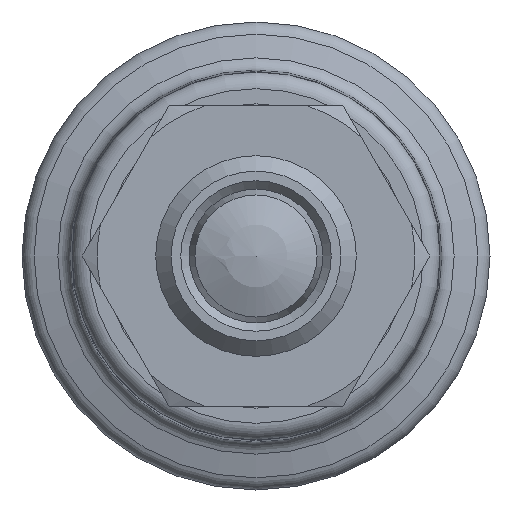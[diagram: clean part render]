
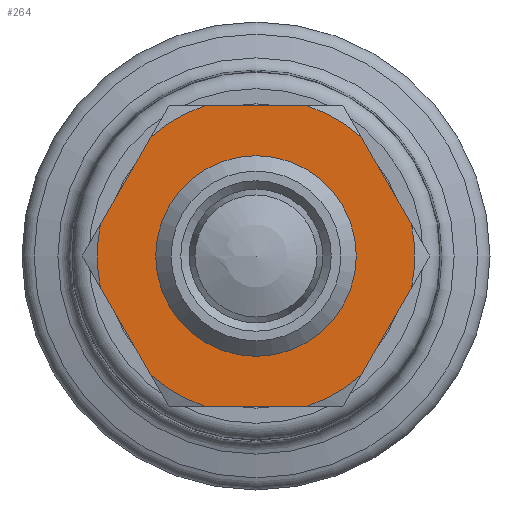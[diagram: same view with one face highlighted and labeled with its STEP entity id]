
A CAD part, left-side view. The second image highlights one B-rep face of the part: STEP entity #264.
In plain terms, the highlighted planar face has unit normal (-1, 0, 0) as drawn and (1, 0, 0) by its records, which use the part's own axes.
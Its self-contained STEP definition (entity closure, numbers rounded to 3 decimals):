
#264 = ADVANCED_FACE( '', ( #449, #450 ), #451, .F. );
#449 = FACE_BOUND( '', #654, .T. );
#450 = FACE_OUTER_BOUND( '', #655, .T. );
#451 = PLANE( '', #656 );
#654 = EDGE_LOOP( '', ( #1031 ) );
#655 = EDGE_LOOP( '', ( #1032, #1033, #1034, #1035, #1036, #1037, #1038, #1039, #1040, #1041, #1042, #1043 ) );
#656 = AXIS2_PLACEMENT_3D( '', #1044, #1045, #1046 );
#1031 = ORIENTED_EDGE( '', *, *, #1248, .F. );
#1032 = ORIENTED_EDGE( '', *, *, #1249, .T. );
#1033 = ORIENTED_EDGE( '', *, *, #1250, .T. );
#1034 = ORIENTED_EDGE( '', *, *, #1219, .T. );
#1035 = ORIENTED_EDGE( '', *, *, #1251, .T. );
#1036 = ORIENTED_EDGE( '', *, *, #1212, .T. );
#1037 = ORIENTED_EDGE( '', *, *, #1252, .T. );
#1038 = ORIENTED_EDGE( '', *, *, #1242, .T. );
#1039 = ORIENTED_EDGE( '', *, *, #1227, .T. );
#1040 = ORIENTED_EDGE( '', *, *, #1237, .T. );
#1041 = ORIENTED_EDGE( '', *, *, #1253, .T. );
#1042 = ORIENTED_EDGE( '', *, *, #1230, .T. );
#1043 = ORIENTED_EDGE( '', *, *, #1254, .T. );
#1044 = CARTESIAN_POINT( '', ( 6., 9.5, 0. ) );
#1045 = DIRECTION( '', ( -1., 0., 0. ) );
#1046 = DIRECTION( '', ( 0., 0., 1. ) );
#1212 = EDGE_CURVE( '', #1387, #1385, #1388, .T. );
#1219 = EDGE_CURVE( '', #1400, #1398, #1401, .T. );
#1227 = EDGE_CURVE( '', #1411, #1414, #1416, .T. );
#1230 = EDGE_CURVE( '', #1422, #1420, #1423, .T. );
#1237 = EDGE_CURVE( '', #1414, #1433, #1435, .T. );
#1242 = EDGE_CURVE( '', #1443, #1411, #1444, .T. );
#1248 = EDGE_CURVE( '', #1452, #1452, #1453, .T. );
#1249 = EDGE_CURVE( '', #1454, #1455, #1456, .T. );
#1250 = EDGE_CURVE( '', #1455, #1400, #1457, .T. );
#1251 = EDGE_CURVE( '', #1398, #1387, #1458, .T. );
#1252 = EDGE_CURVE( '', #1385, #1443, #1459, .T. );
#1253 = EDGE_CURVE( '', #1433, #1422, #1460, .T. );
#1254 = EDGE_CURVE( '', #1420, #1454, #1461, .T. );
#1385 = VERTEX_POINT( '', #1906 );
#1387 = VERTEX_POINT( '', #1911 );
#1388 = LINE( '', #1912, #1913 );
#1398 = VERTEX_POINT( '', #1934 );
#1400 = VERTEX_POINT( '', #1939 );
#1401 = LINE( '', #1940, #1941 );
#1411 = VERTEX_POINT( '', #1962 );
#1414 = VERTEX_POINT( '', #1968 );
#1416 = CIRCLE( '', #1973, 9.5 );
#1420 = VERTEX_POINT( '', #1978 );
#1422 = VERTEX_POINT( '', #1983 );
#1423 = LINE( '', #1984, #1985 );
#1433 = VERTEX_POINT( '', #2006 );
#1435 = LINE( '', #2011, #2012 );
#1443 = VERTEX_POINT( '', #2028 );
#1444 = LINE( '', #2029, #2030 );
#1452 = VERTEX_POINT( '', #2048 );
#1453 = CIRCLE( '', #2049, 6. );
#1454 = VERTEX_POINT( '', #2050 );
#1455 = VERTEX_POINT( '', #2051 );
#1456 = LINE( '', #2052, #2053 );
#1457 = CIRCLE( '', #2054, 9.5 );
#1458 = CIRCLE( '', #2055, 9.5 );
#1459 = CIRCLE( '', #2056, 9.5 );
#1460 = CIRCLE( '', #2057, 9.5 );
#1461 = CIRCLE( '', #2058, 9.5 );
#1906 = CARTESIAN_POINT( '', ( 6., -3.041, 9. ) );
#1911 = CARTESIAN_POINT( '', ( 6., 3.041, 9. ) );
#1912 = CARTESIAN_POINT( '', ( 6., 9.5, 9. ) );
#1913 = VECTOR( '', #2234, 1000. );
#1934 = CARTESIAN_POINT( '', ( 6., 6.274, 7.134 ) );
#1939 = CARTESIAN_POINT( '', ( 6., 9.315, 1.866 ) );
#1940 = CARTESIAN_POINT( '', ( 6., 10.169, 0.386 ) );
#1941 = VECTOR( '', #2237, 1000. );
#1962 = CARTESIAN_POINT( '', ( 6., -9.315, 1.866 ) );
#1968 = CARTESIAN_POINT( '', ( 6., -9.315, -1.866 ) );
#1973 = AXIS2_PLACEMENT_3D( '', #2240, #2241, #2242 );
#1978 = CARTESIAN_POINT( '', ( 6., 3.041, -9. ) );
#1983 = CARTESIAN_POINT( '', ( 6., -3.041, -9. ) );
#1984 = CARTESIAN_POINT( '', ( 6., 9.5, -9. ) );
#1985 = VECTOR( '', #2244, 1000. );
#2006 = CARTESIAN_POINT( '', ( 6., -6.274, -7.134 ) );
#2011 = CARTESIAN_POINT( '', ( 6., -5.419, -8.614 ) );
#2012 = VECTOR( '', #2247, 1000. );
#2028 = CARTESIAN_POINT( '', ( 6., -6.274, 7.134 ) );
#2029 = CARTESIAN_POINT( '', ( 6., -5.419, 8.614 ) );
#2030 = VECTOR( '', #2250, 1000. );
#2048 = CARTESIAN_POINT( '', ( 6., 0., -6. ) );
#2049 = AXIS2_PLACEMENT_3D( '', #2255, #2256, #2257 );
#2050 = CARTESIAN_POINT( '', ( 6., 6.274, -7.134 ) );
#2051 = CARTESIAN_POINT( '', ( 6., 9.315, -1.866 ) );
#2052 = CARTESIAN_POINT( '', ( 6., 10.169, -0.386 ) );
#2053 = VECTOR( '', #2258, 1000. );
#2054 = AXIS2_PLACEMENT_3D( '', #2259, #2260, #2261 );
#2055 = AXIS2_PLACEMENT_3D( '', #2262, #2263, #2264 );
#2056 = AXIS2_PLACEMENT_3D( '', #2265, #2266, #2267 );
#2057 = AXIS2_PLACEMENT_3D( '', #2268, #2269, #2270 );
#2058 = AXIS2_PLACEMENT_3D( '', #2271, #2272, #2273 );
#2234 = DIRECTION( '', ( 0., -1., 0. ) );
#2237 = DIRECTION( '', ( 0., -0.5, 0.866 ) );
#2240 = CARTESIAN_POINT( '', ( 6., 0., 0. ) );
#2241 = DIRECTION( '', ( 1., 0., 0. ) );
#2242 = DIRECTION( '', ( 0., 0., -1. ) );
#2244 = DIRECTION( '', ( 0., 1., 0. ) );
#2247 = DIRECTION( '', ( 0., 0.5, -0.866 ) );
#2250 = DIRECTION( '', ( 0., -0.5, -0.866 ) );
#2255 = CARTESIAN_POINT( '', ( 6., 0., 0. ) );
#2256 = DIRECTION( '', ( 1., 0., 0. ) );
#2257 = DIRECTION( '', ( 0., 0., -1. ) );
#2258 = DIRECTION( '', ( 0., 0.5, 0.866 ) );
#2259 = CARTESIAN_POINT( '', ( 6., 0., 0. ) );
#2260 = DIRECTION( '', ( 1., 0., 0. ) );
#2261 = DIRECTION( '', ( 0., 0., -1. ) );
#2262 = CARTESIAN_POINT( '', ( 6., 0., 0. ) );
#2263 = DIRECTION( '', ( 1., 0., 0. ) );
#2264 = DIRECTION( '', ( 0., 0., -1. ) );
#2265 = CARTESIAN_POINT( '', ( 6., 0., 0. ) );
#2266 = DIRECTION( '', ( 1., 0., 0. ) );
#2267 = DIRECTION( '', ( 0., 0., -1. ) );
#2268 = CARTESIAN_POINT( '', ( 6., 0., 0. ) );
#2269 = DIRECTION( '', ( 1., 0., 0. ) );
#2270 = DIRECTION( '', ( 0., 0., -1. ) );
#2271 = CARTESIAN_POINT( '', ( 6., 0., 0. ) );
#2272 = DIRECTION( '', ( 1., 0., 0. ) );
#2273 = DIRECTION( '', ( 0., 0., -1. ) );
